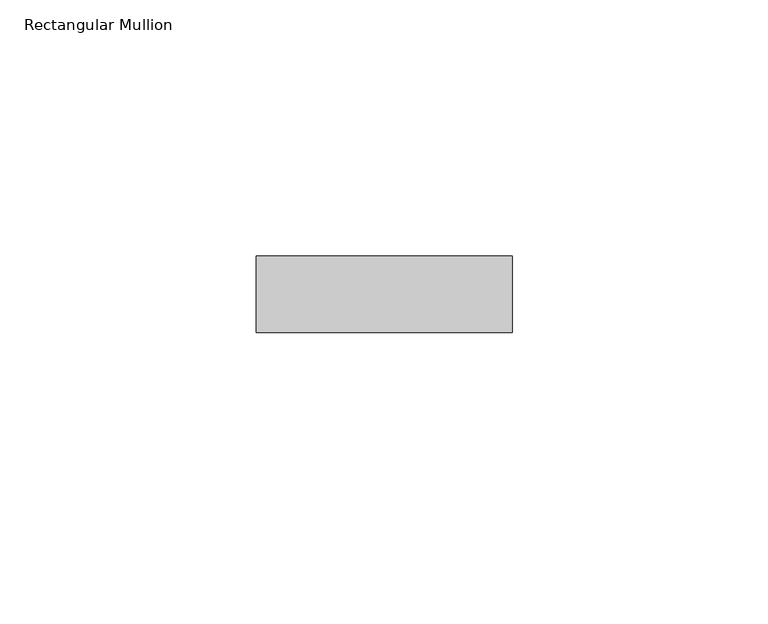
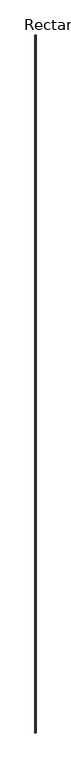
"""IFC4 building model written with IfcOpenShell, lengths in millimetres: member geometry, Rectangular Mullion : Ripa."""

from ifc_helpers import new_model, si_unit, frame, origin, place, context, project, spatial, polyline, outline, extrude, source, transform, mapped, element, save


def rectangular_mullion_38d2f0d7(model_context):
    return source(origin(), model_context, "Body", "SweptSolid", [
        extrude(outline(polyline([(0.0, -75.0), (-50.0, -75.0), (-50.0, -60.0), (0.0, -60.0), (0.0, -75.0)])), frame((0.0, 0.0, -39475.0011106), z_axis=(0.0, 0.0, 1.0), x_axis=(1.0, 0.0, 0.0)), (0.0, 0.0, 1.0), 39475.0011106),
    ])


if __name__ == "__main__":
    model = new_model("IFC4")
    model_context = context("Model", 3, world=origin())
    ifc_project = project(units=[si_unit("LENGTHUNIT", "METRE", prefix="MILLI")], contexts=[model_context])
    site = spatial("IfcSite", under=ifc_project)
    building = spatial("IfcBuilding", under=site)
    placement = place(None, origin())
    rectangular_mullion_shape = rectangular_mullion_38d2f0d7(model_context)
    element("IfcMember", 1, ObjectType="Rectangular Mullion : Ripa", at=placement, inside=building, context=model_context, shape_type="MappedRepresentation", body=[
        mapped(rectangular_mullion_shape, transform((0.0, 0.0, 0.0), x_axis=(1.0, 0.0, 0.0), y_axis=(0.0, 1.0, 0.0), z_axis=(0.0, 0.0, 1.0))),
    ])
    save(model, "model.ifc")
